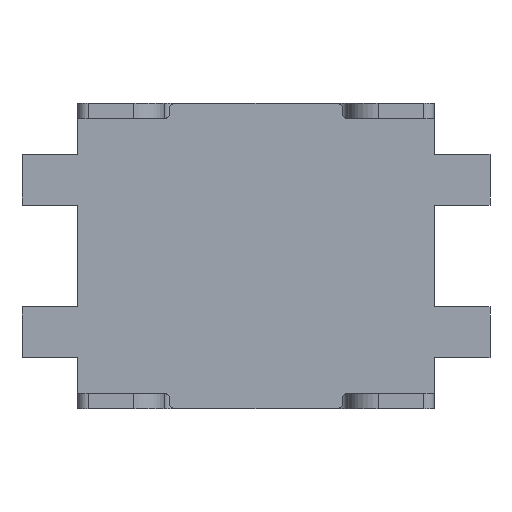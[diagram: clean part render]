
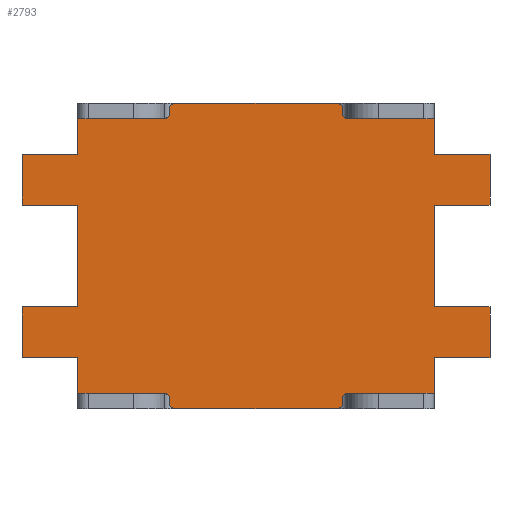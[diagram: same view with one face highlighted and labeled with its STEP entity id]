
A CAD part, front view. The second image highlights one B-rep face of the part: STEP entity #2793.
In plain terms, the highlighted planar face has unit normal (0, -1, 0).
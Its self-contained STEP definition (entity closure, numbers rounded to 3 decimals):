
#25=DIRECTION('',(1.,0.,0.));
#26=VECTOR('',#25,0.85);
#27=CARTESIAN_POINT('',(0.9,0.,-1.35));
#28=LINE('',#27,#26);
#32=CARTESIAN_POINT('',(0.9,0.,-1.4));
#33=DIRECTION('',(0.,1.,0.));
#34=DIRECTION('',(-1.,0.,0.));
#35=AXIS2_PLACEMENT_3D('',#32,#33,#34);
#40=DIRECTION('',(0.,0.,1.));
#41=VECTOR('',#40,0.05);
#42=CARTESIAN_POINT('',(0.85,0.,-1.45));
#43=LINE('',#42,#41);
#47=CARTESIAN_POINT('',(0.8,0.,-1.45));
#48=DIRECTION('',(0.,-1.,0.));
#49=DIRECTION('',(0.,0.,-1.));
#50=AXIS2_PLACEMENT_3D('',#47,#48,#49);
#55=CARTESIAN_POINT('',(-0.8,0.,-1.45));
#56=DIRECTION('',(0.,-1.,0.));
#57=DIRECTION('',(-1.,0.,0.));
#58=AXIS2_PLACEMENT_3D('',#55,#56,#57);
#63=CARTESIAN_POINT('',(-0.9,0.,-1.4));
#64=DIRECTION('',(0.,1.,0.));
#65=DIRECTION('',(0.,0.,1.));
#66=AXIS2_PLACEMENT_3D('',#63,#64,#65);
#71=DIRECTION('',(1.,0.,0.));
#72=VECTOR('',#71,0.85);
#73=CARTESIAN_POINT('',(-1.75,0.,-1.35));
#74=LINE('',#73,#72);
#78=DIRECTION('',(1.,0.,0.));
#79=VECTOR('',#78,0.55);
#80=CARTESIAN_POINT('',(-2.3,0.,-1.));
#81=LINE('',#80,#79);
#85=DIRECTION('',(0.,0.,-1.));
#86=VECTOR('',#85,0.5);
#87=CARTESIAN_POINT('',(-2.3,0.,-0.5));
#88=LINE('',#87,#86);
#92=DIRECTION('',(-1.,0.,0.));
#93=VECTOR('',#92,0.55);
#94=CARTESIAN_POINT('',(-1.75,0.,-0.5));
#95=LINE('',#94,#93);
#99=DIRECTION('',(1.,0.,0.));
#100=VECTOR('',#99,0.55);
#101=CARTESIAN_POINT('',(-2.3,0.,0.5));
#102=LINE('',#101,#100);
#106=DIRECTION('',(0.,0.,-1.));
#107=VECTOR('',#106,0.5);
#108=CARTESIAN_POINT('',(-2.3,0.,1.));
#109=LINE('',#108,#107);
#113=DIRECTION('',(-1.,0.,0.));
#114=VECTOR('',#113,0.55);
#115=CARTESIAN_POINT('',(-1.75,0.,1.));
#116=LINE('',#115,#114);
#120=CARTESIAN_POINT('',(-0.9,0.,1.4));
#121=DIRECTION('',(0.,1.,0.));
#122=DIRECTION('',(1.,0.,0.));
#123=AXIS2_PLACEMENT_3D('',#120,#121,#122);
#128=DIRECTION('',(0.,0.,-1.));
#129=VECTOR('',#128,0.05);
#130=CARTESIAN_POINT('',(-0.85,0.,1.45));
#131=LINE('',#130,#129);
#135=CARTESIAN_POINT('',(-0.8,0.,1.45));
#136=DIRECTION('',(0.,-1.,0.));
#137=DIRECTION('',(0.,0.,1.));
#138=AXIS2_PLACEMENT_3D('',#135,#136,#137);
#143=CARTESIAN_POINT('',(0.8,0.,1.45));
#144=DIRECTION('',(0.,-1.,0.));
#145=DIRECTION('',(1.,0.,0.));
#146=AXIS2_PLACEMENT_3D('',#143,#144,#145);
#151=CARTESIAN_POINT('',(0.9,0.,1.4));
#152=DIRECTION('',(0.,1.,0.));
#153=DIRECTION('',(0.,0.,-1.));
#154=AXIS2_PLACEMENT_3D('',#151,#152,#153);
#159=DIRECTION('',(-1.,0.,0.));
#160=VECTOR('',#159,0.55);
#161=CARTESIAN_POINT('',(2.3,0.,1.));
#162=LINE('',#161,#160);
#166=DIRECTION('',(0.,0.,1.));
#167=VECTOR('',#166,0.5);
#168=CARTESIAN_POINT('',(2.3,0.,0.5));
#169=LINE('',#168,#167);
#173=DIRECTION('',(1.,0.,0.));
#174=VECTOR('',#173,0.55);
#175=CARTESIAN_POINT('',(1.75,0.,0.5));
#176=LINE('',#175,#174);
#180=DIRECTION('',(-1.,0.,0.));
#181=VECTOR('',#180,0.55);
#182=CARTESIAN_POINT('',(2.3,0.,-0.5));
#183=LINE('',#182,#181);
#187=DIRECTION('',(0.,0.,1.));
#188=VECTOR('',#187,0.5);
#189=CARTESIAN_POINT('',(2.3,0.,-1.));
#190=LINE('',#189,#188);
#194=DIRECTION('',(1.,0.,0.));
#195=VECTOR('',#194,0.55);
#196=CARTESIAN_POINT('',(1.75,0.,-1.));
#197=LINE('',#196,#195);
#222=DIRECTION('',(0.,0.,-1.));
#223=VECTOR('',#222,0.35);
#224=CARTESIAN_POINT('',(1.75,0.,-1.));
#225=LINE('',#224,#223);
#243=DIRECTION('',(0.,0.,-1.));
#244=VECTOR('',#243,1.);
#245=CARTESIAN_POINT('',(1.75,0.,0.5));
#246=LINE('',#245,#244);
#264=DIRECTION('',(0.,0.,-1.));
#265=VECTOR('',#264,0.35);
#266=CARTESIAN_POINT('',(1.75,0.,1.35));
#267=LINE('',#266,#265);
#451=DIRECTION('',(0.,0.,1.));
#452=VECTOR('',#451,0.35);
#453=CARTESIAN_POINT('',(-1.75,0.,1.));
#454=LINE('',#453,#452);
#465=DIRECTION('',(0.,0.,1.));
#466=VECTOR('',#465,1.);
#467=CARTESIAN_POINT('',(-1.75,0.,-0.5));
#468=LINE('',#467,#466);
#479=DIRECTION('',(0.,0.,1.));
#480=VECTOR('',#479,0.35);
#481=CARTESIAN_POINT('',(-1.75,0.,-1.35));
#482=LINE('',#481,#480);
#871=DIRECTION('',(1.,0.,0.));
#872=VECTOR('',#871,0.85);
#873=CARTESIAN_POINT('',(0.9,0.,1.35));
#874=LINE('',#873,#872);
#899=DIRECTION('',(1.,0.,0.));
#900=VECTOR('',#899,0.85);
#901=CARTESIAN_POINT('',(-1.75,0.,1.35));
#902=LINE('',#901,#900);
#990=DIRECTION('',(0.,0.,-1.));
#991=VECTOR('',#990,0.05);
#992=CARTESIAN_POINT('',(0.85,0.,1.45));
#993=LINE('',#992,#991);
#1049=DIRECTION('',(1.,0.,0.));
#1050=VECTOR('',#1049,1.6);
#1051=CARTESIAN_POINT('',(-0.8,0.,1.5));
#1052=LINE('',#1051,#1050);
#1356=DIRECTION('',(0.,0.,1.));
#1357=VECTOR('',#1356,0.05);
#1358=CARTESIAN_POINT('',(-0.85,0.,-1.45));
#1359=LINE('',#1358,#1357);
#1377=DIRECTION('',(-1.,0.,0.));
#1378=VECTOR('',#1377,1.6);
#1379=CARTESIAN_POINT('',(0.8,0.,-1.5));
#1380=LINE('',#1379,#1378);
#2339=CARTESIAN_POINT('',(0.9,0.,1.35));
#2340=CARTESIAN_POINT('',(1.75,0.,1.35));
#2341=VERTEX_POINT('',#2339);
#2342=VERTEX_POINT('',#2340);
#2343=CARTESIAN_POINT('',(0.85,0.,1.4));
#2344=VERTEX_POINT('',#2343);
#2345=CARTESIAN_POINT('',(0.85,0.,1.45));
#2346=VERTEX_POINT('',#2345);
#2347=CARTESIAN_POINT('',(0.8,0.,1.5));
#2348=VERTEX_POINT('',#2347);
#2349=CARTESIAN_POINT('',(-0.8,0.,1.5));
#2350=VERTEX_POINT('',#2349);
#2351=CARTESIAN_POINT('',(-0.85,0.,1.45));
#2352=VERTEX_POINT('',#2351);
#2353=CARTESIAN_POINT('',(-0.85,0.,1.4));
#2354=VERTEX_POINT('',#2353);
#2355=CARTESIAN_POINT('',(-0.9,0.,1.35));
#2356=VERTEX_POINT('',#2355);
#2357=CARTESIAN_POINT('',(-1.75,0.,1.35));
#2358=VERTEX_POINT('',#2357);
#2359=CARTESIAN_POINT('',(-1.75,0.,-1.35));
#2360=CARTESIAN_POINT('',(-0.9,0.,-1.35));
#2361=VERTEX_POINT('',#2359);
#2362=VERTEX_POINT('',#2360);
#2363=CARTESIAN_POINT('',(-0.85,0.,-1.4));
#2364=VERTEX_POINT('',#2363);
#2365=CARTESIAN_POINT('',(-0.85,0.,-1.45));
#2366=VERTEX_POINT('',#2365);
#2367=CARTESIAN_POINT('',(-0.8,0.,-1.5));
#2368=VERTEX_POINT('',#2367);
#2369=CARTESIAN_POINT('',(0.8,0.,-1.5));
#2370=VERTEX_POINT('',#2369);
#2371=CARTESIAN_POINT('',(0.85,0.,-1.45));
#2372=VERTEX_POINT('',#2371);
#2373=CARTESIAN_POINT('',(0.85,0.,-1.4));
#2374=VERTEX_POINT('',#2373);
#2375=CARTESIAN_POINT('',(0.9,0.,-1.35));
#2376=VERTEX_POINT('',#2375);
#2377=CARTESIAN_POINT('',(1.75,0.,-1.35));
#2378=VERTEX_POINT('',#2377);
#2530=CARTESIAN_POINT('',(1.75,0.,0.5));
#2531=CARTESIAN_POINT('',(2.3,0.,0.5));
#2532=VERTEX_POINT('',#2530);
#2533=VERTEX_POINT('',#2531);
#2534=CARTESIAN_POINT('',(2.3,0.,1.));
#2535=CARTESIAN_POINT('',(1.75,0.,1.));
#2536=VERTEX_POINT('',#2534);
#2537=VERTEX_POINT('',#2535);
#2538=CARTESIAN_POINT('',(-1.75,0.,1.));
#2539=CARTESIAN_POINT('',(-2.3,0.,1.));
#2540=VERTEX_POINT('',#2538);
#2541=VERTEX_POINT('',#2539);
#2542=CARTESIAN_POINT('',(-2.3,0.,0.5));
#2543=CARTESIAN_POINT('',(-1.75,0.,0.5));
#2544=VERTEX_POINT('',#2542);
#2545=VERTEX_POINT('',#2543);
#2562=CARTESIAN_POINT('',(1.75,0.,-1.));
#2563=CARTESIAN_POINT('',(2.3,0.,-1.));
#2564=VERTEX_POINT('',#2562);
#2565=VERTEX_POINT('',#2563);
#2566=CARTESIAN_POINT('',(2.3,0.,-0.5));
#2567=CARTESIAN_POINT('',(1.75,0.,-0.5));
#2568=VERTEX_POINT('',#2566);
#2569=VERTEX_POINT('',#2567);
#2570=CARTESIAN_POINT('',(-1.75,0.,-0.5));
#2571=CARTESIAN_POINT('',(-2.3,0.,-0.5));
#2572=VERTEX_POINT('',#2570);
#2573=VERTEX_POINT('',#2571);
#2574=CARTESIAN_POINT('',(-2.3,0.,-1.));
#2575=CARTESIAN_POINT('',(-1.75,0.,-1.));
#2576=VERTEX_POINT('',#2574);
#2577=VERTEX_POINT('',#2575);
#2714=CARTESIAN_POINT('',(0.,0.,0.));
#2715=DIRECTION('',(0.,1.,0.));
#2716=DIRECTION('',(1.,0.,0.));
#2717=AXIS2_PLACEMENT_3D('',#2714,#2715,#2716);
#2718=PLANE('',#2717);
#2720=ORIENTED_EDGE('',*,*,#2719,.T.);
#2722=ORIENTED_EDGE('',*,*,#2721,.F.);
#2724=ORIENTED_EDGE('',*,*,#2723,.F.);
#2726=ORIENTED_EDGE('',*,*,#2725,.F.);
#2728=ORIENTED_EDGE('',*,*,#2727,.F.);
#2730=ORIENTED_EDGE('',*,*,#2729,.T.);
#2732=ORIENTED_EDGE('',*,*,#2731,.F.);
#2734=ORIENTED_EDGE('',*,*,#2733,.T.);
#2736=ORIENTED_EDGE('',*,*,#2735,.F.);
#2738=ORIENTED_EDGE('',*,*,#2737,.F.);
#2740=ORIENTED_EDGE('',*,*,#2739,.T.);
#2742=ORIENTED_EDGE('',*,*,#2741,.F.);
#2744=ORIENTED_EDGE('',*,*,#2743,.F.);
#2746=ORIENTED_EDGE('',*,*,#2745,.F.);
#2748=ORIENTED_EDGE('',*,*,#2747,.T.);
#2750=ORIENTED_EDGE('',*,*,#2749,.F.);
#2752=ORIENTED_EDGE('',*,*,#2751,.F.);
#2754=ORIENTED_EDGE('',*,*,#2753,.F.);
#2756=ORIENTED_EDGE('',*,*,#2755,.T.);
#2758=ORIENTED_EDGE('',*,*,#2757,.T.);
#2760=ORIENTED_EDGE('',*,*,#2759,.F.);
#2762=ORIENTED_EDGE('',*,*,#2761,.F.);
#2764=ORIENTED_EDGE('',*,*,#2763,.F.);
#2766=ORIENTED_EDGE('',*,*,#2765,.T.);
#2768=ORIENTED_EDGE('',*,*,#2767,.F.);
#2770=ORIENTED_EDGE('',*,*,#2769,.T.);
#2772=ORIENTED_EDGE('',*,*,#2771,.F.);
#2774=ORIENTED_EDGE('',*,*,#2773,.T.);
#2776=ORIENTED_EDGE('',*,*,#2775,.T.);
#2778=ORIENTED_EDGE('',*,*,#2777,.F.);
#2780=ORIENTED_EDGE('',*,*,#2779,.F.);
#2782=ORIENTED_EDGE('',*,*,#2781,.F.);
#2784=ORIENTED_EDGE('',*,*,#2783,.T.);
#2786=ORIENTED_EDGE('',*,*,#2785,.F.);
#2788=ORIENTED_EDGE('',*,*,#2787,.F.);
#2790=ORIENTED_EDGE('',*,*,#2789,.F.);
#2791=EDGE_LOOP('',(#2720,#2722,#2724,#2726,#2728,#2730,#2732,#2734,#2736,#2738,
#2740,#2742,#2744,#2746,#2748,#2750,#2752,#2754,#2756,#2758,#2760,#2762,#2764,
#2766,#2768,#2770,#2772,#2774,#2776,#2778,#2780,#2782,#2784,#2786,#2788,#2790));
#2792=FACE_OUTER_BOUND('',#2791,.F.);
#36=CIRCLE('',#35,0.05);
#51=CIRCLE('',#50,0.05);
#59=CIRCLE('',#58,0.05);
#67=CIRCLE('',#66,0.05);
#124=CIRCLE('',#123,0.05);
#139=CIRCLE('',#138,0.05);
#147=CIRCLE('',#146,0.05);
#155=CIRCLE('',#154,0.05);
#2719=EDGE_CURVE('',#2564,#2378,#225,.T.);
#2721=EDGE_CURVE('',#2376,#2378,#28,.T.);
#2723=EDGE_CURVE('',#2374,#2376,#36,.T.);
#2725=EDGE_CURVE('',#2372,#2374,#43,.T.);
#2727=EDGE_CURVE('',#2370,#2372,#51,.T.);
#2729=EDGE_CURVE('',#2370,#2368,#1380,.T.);
#2731=EDGE_CURVE('',#2366,#2368,#59,.T.);
#2733=EDGE_CURVE('',#2366,#2364,#1359,.T.);
#2735=EDGE_CURVE('',#2362,#2364,#67,.T.);
#2737=EDGE_CURVE('',#2361,#2362,#74,.T.);
#2739=EDGE_CURVE('',#2361,#2577,#482,.T.);
#2741=EDGE_CURVE('',#2576,#2577,#81,.T.);
#2743=EDGE_CURVE('',#2573,#2576,#88,.T.);
#2745=EDGE_CURVE('',#2572,#2573,#95,.T.);
#2747=EDGE_CURVE('',#2572,#2545,#468,.T.);
#2749=EDGE_CURVE('',#2544,#2545,#102,.T.);
#2751=EDGE_CURVE('',#2541,#2544,#109,.T.);
#2753=EDGE_CURVE('',#2540,#2541,#116,.T.);
#2755=EDGE_CURVE('',#2540,#2358,#454,.T.);
#2757=EDGE_CURVE('',#2358,#2356,#902,.T.);
#2759=EDGE_CURVE('',#2354,#2356,#124,.T.);
#2761=EDGE_CURVE('',#2352,#2354,#131,.T.);
#2763=EDGE_CURVE('',#2350,#2352,#139,.T.);
#2765=EDGE_CURVE('',#2350,#2348,#1052,.T.);
#2767=EDGE_CURVE('',#2346,#2348,#147,.T.);
#2769=EDGE_CURVE('',#2346,#2344,#993,.T.);
#2771=EDGE_CURVE('',#2341,#2344,#155,.T.);
#2773=EDGE_CURVE('',#2341,#2342,#874,.T.);
#2775=EDGE_CURVE('',#2342,#2537,#267,.T.);
#2777=EDGE_CURVE('',#2536,#2537,#162,.T.);
#2779=EDGE_CURVE('',#2533,#2536,#169,.T.);
#2781=EDGE_CURVE('',#2532,#2533,#176,.T.);
#2783=EDGE_CURVE('',#2532,#2569,#246,.T.);
#2785=EDGE_CURVE('',#2568,#2569,#183,.T.);
#2787=EDGE_CURVE('',#2565,#2568,#190,.T.);
#2789=EDGE_CURVE('',#2564,#2565,#197,.T.);
#2793=ADVANCED_FACE('',(#2792),#2718,.F.);
